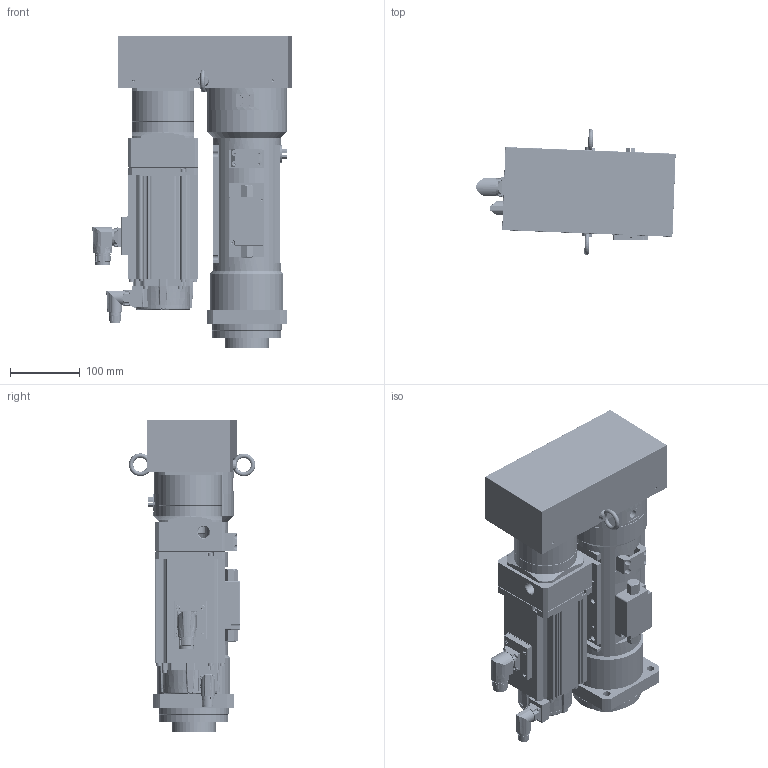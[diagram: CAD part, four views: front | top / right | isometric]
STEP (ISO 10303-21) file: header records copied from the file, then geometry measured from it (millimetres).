
FILE_DESCRIPTION( ('This file contains a STEP AP42 implementation' ,'as created by ZW3D STEP Interface translator.') ,'2;1' );
FILE_NAME( 'OACIS-DS-P020-100-215-A6V400_20.51.stp' ,'26 416.111654', (''), ('ZWCAD Software Co.'), 'Version 1.0', 'ZW3D to STEP translator', '' );
FILE_SCHEMA(('AUTOMOTIVE_DESIGN { 1 0 10303 214 1 1 1 1 }'));
Length unit declared in the file: millimetre
Products named in the file (1): 0
Bounding box: 285.38 x 180.78 x 448 mm (x, y, z)
Volume: 6143665.6 mm3; surface area: 1129572.9 mm2
Topology: 50 solids, 54 shells, 3422 faces, 8900 edges, 5855 vertices
Faces by surface type: cylinder 1503, plane 1392, cone 341, torus 108, bspline 58, sphere 20
Full cylindrical faces by diameter (mm): 1.25 x12, 1.6 x8, 2.232 x6, 2.459 x5, 2.75 x4, 2.8 x1, 3.2 x5, 3.242 x10, 3.3 x66, 4 x8, 4.134 x12, 4.2 x4, 4.3 x21, 4.5 x4, 5 x40, 5.5 x9, 6 x8, 6.5 x4, 6.6 x8, 6.647 x5, 6.8 x36, 7 x20, 8 x37, 8.4 x8, 8.5 x25, 9 x4, 11 x12, 12 x1, 13.4 x1, 15 x8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
Entity records: 116448 total; most frequent: CARTESIAN_POINT 24234, DIRECTION 19504, ORIENTED_EDGE 17542, EDGE_CURVE 8799, AXIS2_PLACEMENT_3D 7702, VERTEX_POINT 5799, CIRCLE 4312, VECTOR 4100
